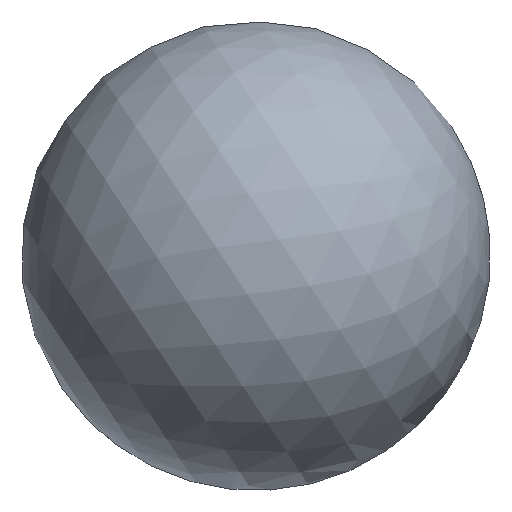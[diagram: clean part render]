
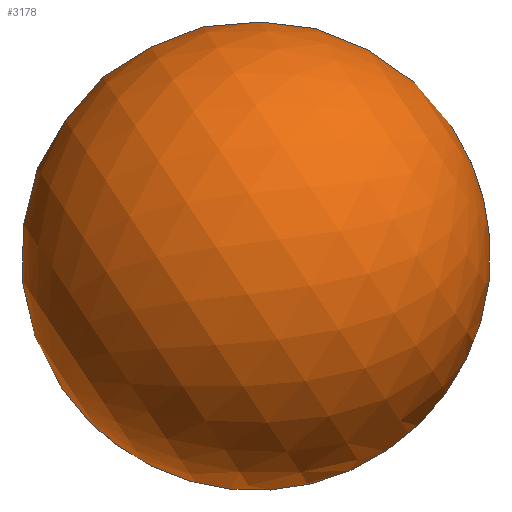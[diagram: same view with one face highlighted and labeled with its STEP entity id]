
A CAD part, top view. The second image highlights one B-rep face of the part: STEP entity #3178.
In plain terms, the highlighted spherical face has radius 75 mm.
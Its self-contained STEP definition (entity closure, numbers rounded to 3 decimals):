
#395=FACE_BOUND('',#746,.T.);
#453=SPHERICAL_SURFACE('',#3619,75.);
#553=FACE_OUTER_BOUND('',#745,.T.);
#745=EDGE_LOOP('',(#2229,#2230));
#746=EDGE_LOOP('',(#2231));
#1269=CIRCLE('',#3616,6.);
#1271=CIRCLE('',#3620,75.);
#1468=VERTEX_POINT('',#4978);
#1470=VERTEX_POINT('',#4985);
#1471=VERTEX_POINT('',#4986);
#1775=EDGE_CURVE('',#1468,#1468,#1269,.T.);
#1778=EDGE_CURVE('',#1470,#1471,#1271,.T.);
#2229=ORIENTED_EDGE('',*,*,#1778,.T.);
#2230=ORIENTED_EDGE('',*,*,#1778,.F.);
#2231=ORIENTED_EDGE('',*,*,#1775,.T.);
#3178=ADVANCED_FACE('',(#553,#395),#453,.T.);
#3616=AXIS2_PLACEMENT_3D('',#4979,#4027,#4028);
#3619=AXIS2_PLACEMENT_3D('',#4984,#4034,#4035);
#3620=AXIS2_PLACEMENT_3D('',#4987,#4036,#4037);
#4027=DIRECTION('center_axis',(0.,1.,0.));
#4028=DIRECTION('ref_axis',(1.,0.,0.));
#4034=DIRECTION('center_axis',(0.,0.,1.));
#4035=DIRECTION('ref_axis',(1.,0.,0.));
#4036=DIRECTION('center_axis',(0.,-1.,0.));
#4037=DIRECTION('ref_axis',(-1.,0.,0.));
#4978=CARTESIAN_POINT('',(-6.,0.24,0.));
#4979=CARTESIAN_POINT('Origin',(0.,0.24,0.));
#4984=CARTESIAN_POINT('Origin',(0.,75.,0.));
#4985=CARTESIAN_POINT('',(0.,75.,75.));
#4986=CARTESIAN_POINT('',(0.,75.,-75.));
#4987=CARTESIAN_POINT('Origin',(0.,75.,0.));
